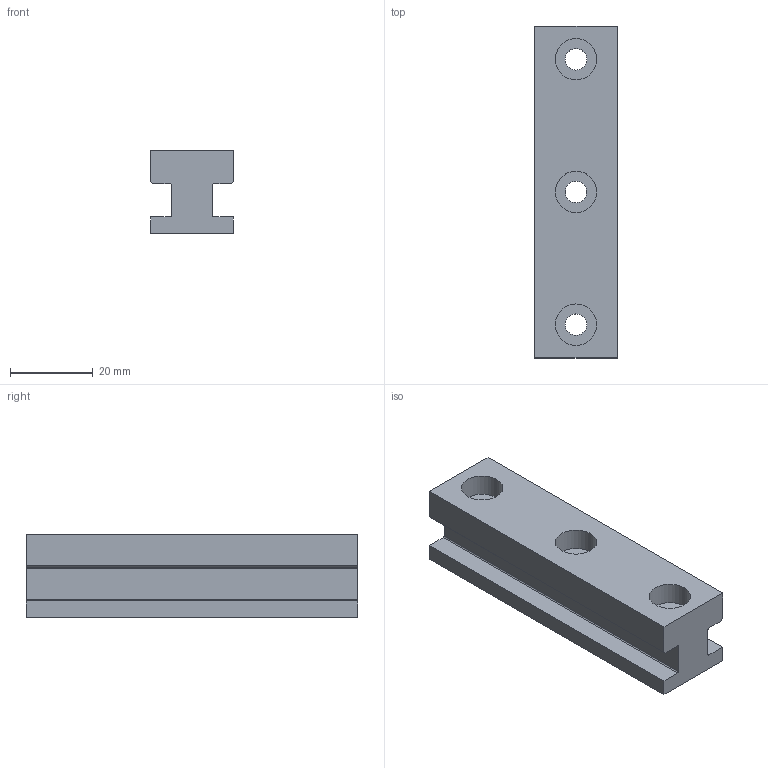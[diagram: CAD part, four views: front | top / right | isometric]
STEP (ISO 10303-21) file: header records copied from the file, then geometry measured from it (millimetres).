
FILE_DESCRIPTION (( 'STEP AP214' ), '1' );
FILE_NAME ('Schieberführung Mitte_-_20 x 20 L=80.step', '2024-01-10T12:53:29', ( '' ), ( '' ), 'SwSTEP 2.0', 'SolidWorks 2020', '' );
FILE_SCHEMA (( 'AUTOMOTIVE_DESIGN' ));
Length unit declared in the file: millimetre
Products named in the file (1): Schieberführung Mitte_-_20 x 20 L=80
Bounding box: 20 x 80 x 20 mm (x, y, z)
Volume: 23381.2 mm3; surface area: 9661.2 mm2
Topology: 1 solids, 1 shells, 145 faces, 375 edges, 250 vertices
Faces by surface type: plane 69, bspline 66, cylinder 10
Full cylindrical faces by diameter (mm): 5.2 x3, 10 x3
Entity records: 8153 total; most frequent: CARTESIAN_POINT 5015, ORIENTED_EDGE 738, DIRECTION 417, EDGE_CURVE 369, VERTEX_POINT 250, VECTOR 217, LINE 217, EDGE_LOOP 175
